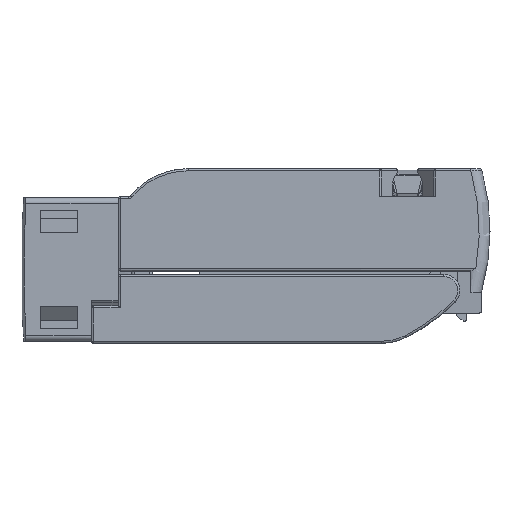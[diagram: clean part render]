
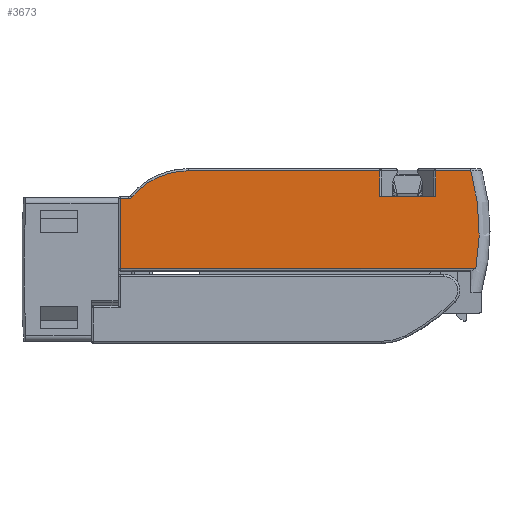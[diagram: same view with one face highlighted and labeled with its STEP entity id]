
A CAD part, front view. The second image highlights one B-rep face of the part: STEP entity #3673.
In plain terms, the highlighted planar face has unit normal (0, -1, 0).
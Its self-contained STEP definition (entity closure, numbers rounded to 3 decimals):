
#2051=CIRCLE('',#40304,6.8);
#2122=CIRCLE('',#40481,20.064);
#2123=CIRCLE('',#40482,0.4);
#3673=ADVANCED_FACE('',(#6969),#5413,.F.);
#5413=PLANE('',#40483);
#6969=FACE_OUTER_BOUND('',#9047,.T.);
#9047=EDGE_LOOP('',(#15764,#15765,#15766,#15767,#15768,#15769,#15770,#15771,
#15772,#15773,#15774));
#15764=ORIENTED_EDGE('',*,*,#28112,.F.);
#15765=ORIENTED_EDGE('',*,*,#28113,.T.);
#15766=ORIENTED_EDGE('',*,*,#28114,.F.);
#15767=ORIENTED_EDGE('',*,*,#28115,.T.);
#15768=ORIENTED_EDGE('',*,*,#28111,.T.);
#15769=ORIENTED_EDGE('',*,*,#28116,.T.);
#15770=ORIENTED_EDGE('',*,*,#28117,.T.);
#15771=ORIENTED_EDGE('',*,*,#27762,.F.);
#15772=ORIENTED_EDGE('',*,*,#27759,.F.);
#15773=ORIENTED_EDGE('',*,*,#28118,.F.);
#15774=ORIENTED_EDGE('',*,*,#28119,.F.);
#23264=VERTEX_POINT('',#59510);
#23265=VERTEX_POINT('',#59512);
#23266=VERTEX_POINT('',#59516);
#23505=VERTEX_POINT('',#60308);
#23506=VERTEX_POINT('',#60312);
#23507=VERTEX_POINT('',#60316);
#23508=VERTEX_POINT('',#60317);
#23509=VERTEX_POINT('',#60319);
#23510=VERTEX_POINT('',#60321);
#23511=VERTEX_POINT('',#60324);
#23512=VERTEX_POINT('',#60327);
#27759=EDGE_CURVE('',#23264,#23265,#2051,.T.);
#27762=EDGE_CURVE('',#23265,#23266,#32870,.T.);
#28111=EDGE_CURVE('',#23505,#23506,#33119,.T.);
#28112=EDGE_CURVE('',#23507,#23508,#33120,.T.);
#28113=EDGE_CURVE('',#23507,#23509,#33121,.T.);
#28114=EDGE_CURVE('',#23510,#23509,#2122,.T.);
#28115=EDGE_CURVE('',#23510,#23505,#33122,.T.);
#28116=EDGE_CURVE('',#23506,#23511,#33123,.T.);
#28117=EDGE_CURVE('',#23511,#23266,#33124,.T.);
#28118=EDGE_CURVE('',#23512,#23264,#2123,.T.);
#28119=EDGE_CURVE('',#23508,#23512,#33125,.T.);
#32870=LINE('',#59517,#36962);
#33119=LINE('',#60313,#37211);
#33120=LINE('',#60315,#37212);
#33121=LINE('',#60318,#37213);
#33122=LINE('',#60322,#37214);
#33123=LINE('',#60323,#37215);
#33124=LINE('',#60325,#37216);
#33125=LINE('',#60328,#37217);
#36962=VECTOR('',#46828,1.);
#37211=VECTOR('',#47421,1.);
#37212=VECTOR('',#47424,1.);
#37213=VECTOR('',#47425,1.);
#37214=VECTOR('',#47428,1.);
#37215=VECTOR('',#47429,1.);
#37216=VECTOR('',#47430,1.);
#37217=VECTOR('',#47433,1.);
#40304=AXIS2_PLACEMENT_3D('',#59511,#46820,#46821);
#40481=AXIS2_PLACEMENT_3D('',#60320,#47426,#47427);
#40482=AXIS2_PLACEMENT_3D('',#60326,#47431,#47432);
#40483=AXIS2_PLACEMENT_3D('',#60329,#47434,#47435);
#46820=DIRECTION('',(0.,1.,0.));
#46821=DIRECTION('',(-0.769,0.,0.639));
#46828=DIRECTION('',(1.,0.,0.));
#47421=DIRECTION('',(0.,0.,-1.));
#47424=DIRECTION('',(0.,0.,1.));
#47425=DIRECTION('',(1.,0.,0.));
#47426=DIRECTION('',(0.,1.,0.));
#47427=DIRECTION('',(0.961,0.,0.277));
#47428=DIRECTION('',(-1.,0.,0.));
#47429=DIRECTION('',(-1.,0.,0.));
#47430=DIRECTION('',(0.,0.,1.));
#47431=DIRECTION('',(0.,-1.,0.));
#47432=DIRECTION('',(0.,0.,-1.));
#47433=DIRECTION('',(1.,0.,0.));
#47434=DIRECTION('',(0.,1.,0.));
#47435=DIRECTION('',(0.,0.,1.));
#59510=CARTESIAN_POINT('',(-212.22,37.067,7.044));
#59511=CARTESIAN_POINT('',(-206.989,37.067,2.7));
#59512=CARTESIAN_POINT('',(-206.989,37.067,9.5));
#59516=CARTESIAN_POINT('',(-189.235,37.067,9.5));
#59517=CARTESIAN_POINT('',(-206.989,37.067,9.5));
#60308=CARTESIAN_POINT('',(-184.043,37.067,9.5));
#60312=CARTESIAN_POINT('',(-184.043,37.067,7.1));
#60313=CARTESIAN_POINT('',(-184.043,37.067,9.5));
#60315=CARTESIAN_POINT('',(-213.289,37.067,0.4));
#60316=CARTESIAN_POINT('',(-213.289,37.067,0.4));
#60317=CARTESIAN_POINT('',(-213.289,37.067,6.9));
#60318=CARTESIAN_POINT('',(-213.289,37.067,0.4));
#60319=CARTESIAN_POINT('',(-180.306,37.067,0.4));
#60320=CARTESIAN_POINT('',(-200.053,37.067,3.95));
#60321=CARTESIAN_POINT('',(-180.772,37.067,9.5));
#60322=CARTESIAN_POINT('',(-180.772,37.067,9.5));
#60323=CARTESIAN_POINT('',(-184.043,37.067,7.1));
#60324=CARTESIAN_POINT('',(-189.235,37.067,7.1));
#60325=CARTESIAN_POINT('',(-189.235,37.067,7.1));
#60326=CARTESIAN_POINT('',(-212.528,37.067,7.3));
#60327=CARTESIAN_POINT('',(-212.528,37.067,6.9));
#60328=CARTESIAN_POINT('',(-213.289,37.067,6.9));
#60329=CARTESIAN_POINT('',(-213.955,37.067,0.218));
